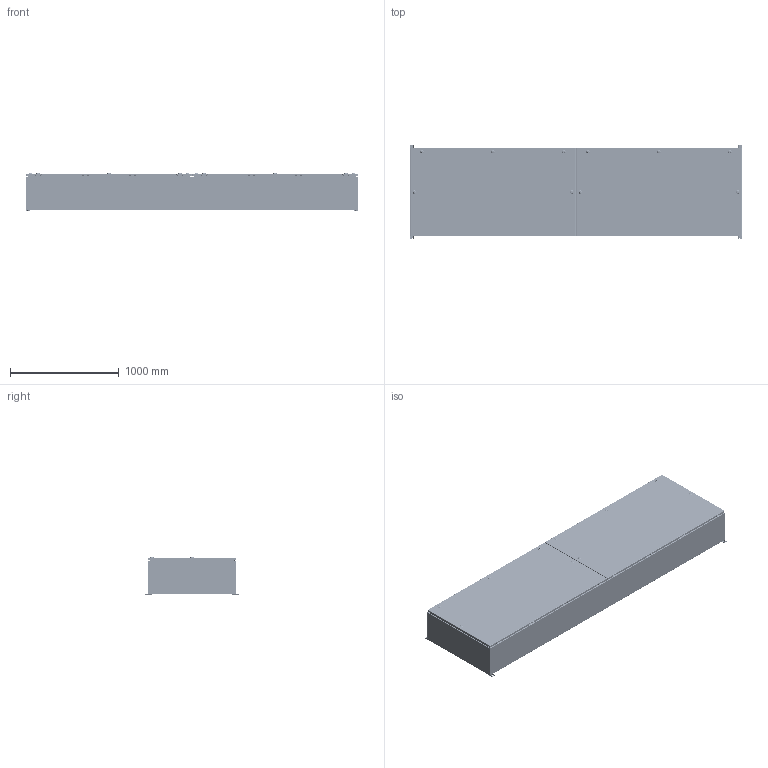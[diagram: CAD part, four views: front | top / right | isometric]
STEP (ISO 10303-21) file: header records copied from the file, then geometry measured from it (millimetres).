
FILE_DESCRIPTION(/* description */ ('1412BTSSCU 1600A - 4 Wires x 120" Assembly'),/* implementation_level */ '2;1');
FILE_NAME(/* name */ 'C:\Vault_Workspace\Inventor_Dwg\BoxCad\Result\1412BTSSCU101604DT\e-mail\3D\1412BTSSCU101604DT.stp',/* time_stamp */ '2022-10-26T18:41:07-04:00',/* author */ ('BoxCad'),/* organization */ (''),/* preprocessor_version */ 'ST-DEVELOPER v18.1',/* originating_system */ 'Autodesk Inventor 2020',/* authorisation */ '');
FILE_SCHEMA (('AUTOMOTIVE_DESIGN { 1 0 10303 214 3 1 1 }'));
Products named in the file (67): 1412BTSSCU101604DT; 1412BTSSCU101604DTB; 1412BTSSCU101604DTB-P; 1412BTSSCU101604DTE-P; STK-Q-16020; iLogic_STK-G-00701; STK-Q-00260; STK-Q-07220-1; STK-Q-07220-A; STK-Q-07220-B; 1412BTSSCU101604DTC; 1412BTSSCU101604DTC-P; 1412BTSSCU101604DTF-P; 1412BTSSCU101604DTG; STK-Q-16095; STK-K-09850-1; STK-Q-33019; STK-Q-90111; STK-Q-40096; STK-Q-63412; STK-S-00100; STK-A-880SCQ4-SLSS6-1; STK-A-880SCQ4-SLSS6-2; STK-A-880SCQ4-SLSS6-3; STK-A-880SCQ4-SLSS6-4; STK-A-880SCQ4-SLSS6-5; STK-A-880SCQ4-SLSS6-6; STK-A-880SCQ4-SLSS6-7; STK-A-880SCQ4-SLSS6-8; STK-A-880SCQ4-SLSS6-9; STK-A-880SCQ4-SLSS6-10; STK-Q-70621; STK-Q-70631; STK-Q-78145; STK-Q-03200; STK-Q-78125; STK-Q-90390; STK-Q-78160; STK-Q-78141; 1412BTSSCU101604DTIP1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
Assembly tree (242 placements, depth 4):
  1412BTSSCU101604DT
    1412BTSSCU101604DTB
      1412BTSSCU101604DTB-P
      1412BTSSCU101604DTE-P
      STK-Q-16095  x2
      STK-Q-16020  x10
      iLogic_STK-G-00701
      STK-Q-00260  x10
      STK-Q-07220-1  x10
        STK-Q-07220-A
        STK-Q-07220-B
      STK-S-00100
    1412BTSSCU101604DTC
      1412BTSSCU101604DTC-P
      1412BTSSCU101604DTF-P
      1412BTSSCU101604DTG  x2
      STK-Q-16095  x2
      STK-K-09850-1  x8
        STK-Q-33019
        STK-Q-90111
        STK-Q-40096
        STK-Q-63412
      STK-S-00100
      STK-A-880SCQ4-SLSS6-1
        STK-Q-70621
        STK-Q-70631
        STK-Q-78145
        STK-Q-03200
        STK-Q-78125
        STK-Q-90390
        STK-Q-78160
        STK-Q-78141
      STK-A-880SCQ4-SLSS6-2
        STK-Q-70621
        STK-Q-70631
        STK-Q-78145
        STK-Q-03200
        STK-Q-78125
        STK-Q-90390
        STK-Q-78160
        STK-Q-78141
      STK-A-880SCQ4-SLSS6-3
        STK-Q-70621
        STK-Q-70631
        STK-Q-78145
        STK-Q-03200
        STK-Q-78125
        STK-Q-90390
        STK-Q-78160
        STK-Q-78141
      STK-A-880SCQ4-SLSS6-4
        STK-Q-70621
        STK-Q-70631
        STK-Q-78145
        STK-Q-03200
        STK-Q-78125
        STK-Q-90390
        STK-Q-78160
        STK-Q-78141
      STK-A-880SCQ4-SLSS6-5
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Bounding box: 3048 x 869.95 x 344.99 mm (x, y, z)
Volume: 29736358.3 mm3; surface area: 21691357.6 mm2
Topology: 362 solids, 362 shells, 50898 faces, 133134 edges, 83068 vertices
Faces by surface type: plane 19522, bspline 13732, cylinder 12374, torus 3566, sphere 1082, cone 622
Full cylindrical faces by diameter (mm): 0.75 x14, 0.762 x14, 1 x32, 1.1 x32, 3.2 x16, 4.5 x64, 4.85 x64, 4.917 x8, 4.95 x16, 5 x10, 5.1 x140, 5.105 x60, 5.9 x278, 6.65 x16, 6.655 x10, 6.8 x10, 6.85 x96, 7.366 x16, 7.8 x656, 8 x64, 8.25 x32, 8.6 x12, 9.5 x10, 9.6 x10, 9.7 x48, 9.906 x4, 10 x18, 10.312 x2, 11.5 x32, 12 x24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
Entity records: 236014 total; most frequent: CARTESIAN_POINT 90544, ORIENTED_EDGE 31966, DIRECTION 26031, EDGE_CURVE 15983, VERTEX_POINT 10230, AXIS2_PLACEMENT_3D 8947, LINE 8137, VECTOR 8137
